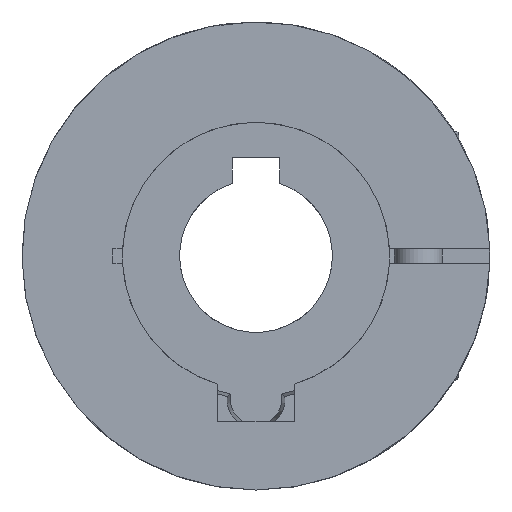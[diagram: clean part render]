
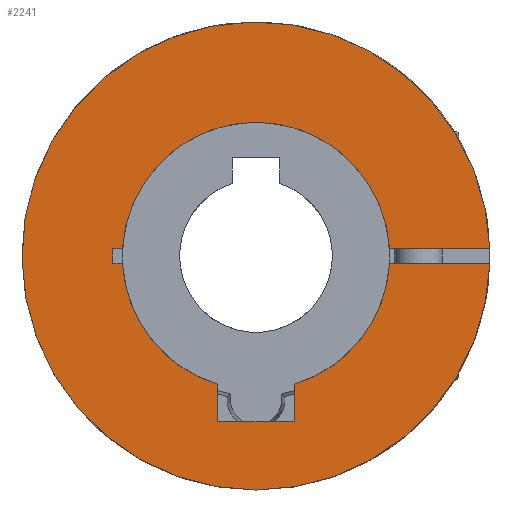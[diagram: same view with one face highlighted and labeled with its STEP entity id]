
A CAD part, left-side view. The second image highlights one B-rep face of the part: STEP entity #2241.
In plain terms, the highlighted planar face has unit normal (-1, 0, 0).
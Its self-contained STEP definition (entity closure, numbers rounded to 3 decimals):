
#101=PLANE('',#2551);
#344=FACE_OUTER_BOUND('',#486,.T.);
#486=EDGE_LOOP('',(#1944,#1945,#1946,#1947,#1948,#1949,#1950,#1951,#1952,
#1953,#1954,#1955,#1956));
#626=LINE('',#15731,#744);
#629=LINE('',#15737,#747);
#630=LINE('',#15739,#748);
#633=LINE('',#15743,#751);
#636=LINE('',#15749,#754);
#638=LINE('',#15754,#756);
#642=LINE('',#15761,#760);
#643=LINE('',#15763,#761);
#744=VECTOR('',#3070,1.);
#747=VECTOR('',#3075,1.);
#748=VECTOR('',#3078,1.);
#751=VECTOR('',#3083,20.559);
#754=VECTOR('',#3090,20.559);
#756=VECTOR('',#3096,11.071);
#760=VECTOR('',#3102,11.071);
#761=VECTOR('',#3105,1.5);
#872=CIRCLE('',#2521,24.5);
#874=CIRCLE('',#2523,24.5);
#884=CIRCLE('',#2535,14.);
#887=CIRCLE('',#2539,14.);
#889=CIRCLE('',#2541,14.);
#1087=VERTEX_POINT('',#15673);
#1088=VERTEX_POINT('',#15674);
#1090=VERTEX_POINT('',#15679);
#1096=VERTEX_POINT('',#15701);
#1097=VERTEX_POINT('',#15702);
#1102=VERTEX_POINT('',#15713);
#1103=VERTEX_POINT('',#15715);
#1106=VERTEX_POINT('',#15721);
#1107=VERTEX_POINT('',#15723);
#1109=VERTEX_POINT('',#15729);
#1111=VERTEX_POINT('',#15735);
#1113=VERTEX_POINT('',#15753);
#1115=VERTEX_POINT('',#15759);
#1379=EDGE_CURVE('',#1087,#1088,#872,.T.);
#1382=EDGE_CURVE('',#1088,#1090,#874,.T.);
#1396=EDGE_CURVE('',#1096,#1097,#884,.T.);
#1402=EDGE_CURVE('',#1103,#1102,#887,.T.);
#1406=EDGE_CURVE('',#1107,#1106,#889,.T.);
#1410=EDGE_CURVE('',#1106,#1109,#626,.T.);
#1413=EDGE_CURVE('',#1109,#1111,#629,.T.);
#1414=EDGE_CURVE('',#1111,#1103,#630,.T.);
#1417=EDGE_CURVE('',#1097,#1090,#633,.T.);
#1420=EDGE_CURVE('',#1087,#1107,#636,.T.);
#1422=EDGE_CURVE('',#1113,#1096,#638,.T.);
#1426=EDGE_CURVE('',#1102,#1115,#642,.T.);
#1427=EDGE_CURVE('',#1115,#1113,#643,.T.);
#1944=ORIENTED_EDGE('',*,*,#1396,.T.);
#1945=ORIENTED_EDGE('',*,*,#1417,.T.);
#1946=ORIENTED_EDGE('',*,*,#1382,.F.);
#1947=ORIENTED_EDGE('',*,*,#1379,.F.);
#1948=ORIENTED_EDGE('',*,*,#1420,.T.);
#1949=ORIENTED_EDGE('',*,*,#1406,.T.);
#1950=ORIENTED_EDGE('',*,*,#1410,.T.);
#1951=ORIENTED_EDGE('',*,*,#1413,.T.);
#1952=ORIENTED_EDGE('',*,*,#1414,.T.);
#1953=ORIENTED_EDGE('',*,*,#1402,.T.);
#1954=ORIENTED_EDGE('',*,*,#1426,.T.);
#1955=ORIENTED_EDGE('',*,*,#1427,.T.);
#1956=ORIENTED_EDGE('',*,*,#1422,.T.);
#2241=ADVANCED_FACE('',(#344),#101,.T.);
#2521=AXIS2_PLACEMENT_3D('',#15675,#3013,#3014);
#2523=AXIS2_PLACEMENT_3D('',#15680,#3018,#3019);
#2535=AXIS2_PLACEMENT_3D('',#15703,#3046,#3047);
#2539=AXIS2_PLACEMENT_3D('',#15716,#3057,#3058);
#2541=AXIS2_PLACEMENT_3D('',#15724,#3063,#3064);
#2551=AXIS2_PLACEMENT_3D('',#15762,#3103,#3104);
#3013=DIRECTION('center_axis',(1.,0.,0.));
#3014=DIRECTION('ref_axis',(0.,0.,1.));
#3018=DIRECTION('center_axis',(1.,0.,0.));
#3019=DIRECTION('ref_axis',(0.,0.,1.));
#3046=DIRECTION('center_axis',(1.,0.,0.));
#3047=DIRECTION('ref_axis',(0.,0.,
-1.));
#3057=DIRECTION('center_axis',(1.,0.,0.));
#3058=DIRECTION('ref_axis',(0.,0.,
-1.));
#3063=DIRECTION('center_axis',(1.,0.,0.));
#3064=DIRECTION('ref_axis',(0.,0.,
-1.));
#3070=DIRECTION('',(0.,0.,-1.));
#3075=DIRECTION('',(0.,1.,0.));
#3078=DIRECTION('',(0.,0.,1.));
#3083=DIRECTION('',(0.,-1.,0.));
#3090=DIRECTION('',(0.,1.,0.));
#3096=DIRECTION('',(0.,-1.,0.));
#3102=DIRECTION('',(0.,1.,0.));
#3103=DIRECTION('center_axis',(-1.,0.,0.));
#3104=DIRECTION('ref_axis',(0.,-1.,0.));
#3105=DIRECTION('',(0.,0.,1.));
#15673=CARTESIAN_POINT('',(0.,-24.489,-0.75));
#15674=CARTESIAN_POINT('',(0.,0.,-24.5));
#15675=CARTESIAN_POINT('Origin',(0.,0.,
0.));
#15679=CARTESIAN_POINT('',(0.,-24.489,0.75));
#15680=CARTESIAN_POINT('Origin',(0.,0.,
0.));
#15701=CARTESIAN_POINT('',(0.,13.98,0.75));
#15702=CARTESIAN_POINT('',(0.,-13.98,0.75));
#15703=CARTESIAN_POINT('Origin',(0.,0.,0.));
#15713=CARTESIAN_POINT('',(0.,13.98,-0.75));
#15715=CARTESIAN_POINT('',(0.,4.,-13.416));
#15716=CARTESIAN_POINT('Origin',(0.,0.,0.));
#15721=CARTESIAN_POINT('',(0.,-4.,-13.416));
#15723=CARTESIAN_POINT('',(0.,-13.98,-0.75));
#15724=CARTESIAN_POINT('Origin',(0.,0.,0.));
#15729=CARTESIAN_POINT('',(0.,-4.,-17.3));
#15731=CARTESIAN_POINT('',(0.,-4.,-4.325));
#15735=CARTESIAN_POINT('',(0.,4.,-17.3));
#15737=CARTESIAN_POINT('',(0.,0.,-17.3));
#15739=CARTESIAN_POINT('',(0.,4.,-4.325));
#15743=CARTESIAN_POINT('',(0.,-3.929,0.75));
#15749=CARTESIAN_POINT('',(0.,-24.489,-0.75));
#15753=CARTESIAN_POINT('',(0.,15.,0.75));
#15754=CARTESIAN_POINT('',(0.,15.,0.75));
#15759=CARTESIAN_POINT('',(0.,15.,-0.75));
#15761=CARTESIAN_POINT('',(0.,3.929,-0.75));
#15762=CARTESIAN_POINT('Origin',(0.,0.,
0.));
#15763=CARTESIAN_POINT('',(0.,15.,-0.75));
